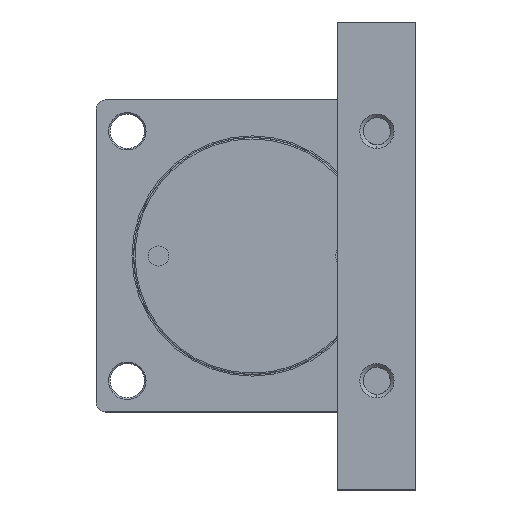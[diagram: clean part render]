
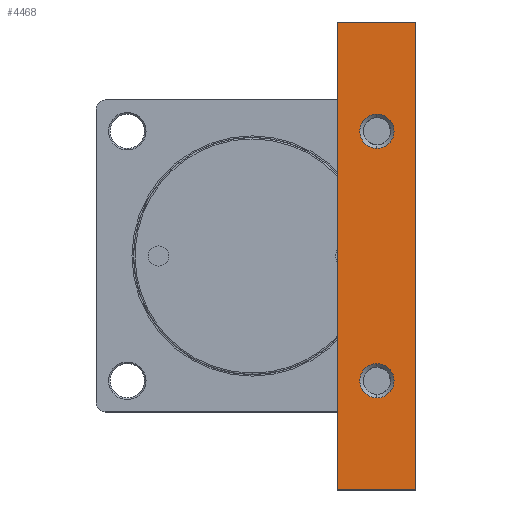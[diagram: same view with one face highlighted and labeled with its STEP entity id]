
A CAD part, left-side view. The second image highlights one B-rep face of the part: STEP entity #4468.
In plain terms, the highlighted planar face has unit normal (1, 0, 0).
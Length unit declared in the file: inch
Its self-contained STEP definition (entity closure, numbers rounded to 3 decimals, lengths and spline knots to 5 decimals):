
#258 = EDGE_LOOP ( 'NONE', ( #7347, #4737 ) ) ;
#575 = DIRECTION ( 'NONE',  ( 0., 0., 1. ) ) ;
#580 = DIRECTION ( 'NONE',  ( -1., 0., 0. ) ) ;
#596 = CARTESIAN_POINT ( 'NONE',  ( -3.3622, -3.14961, 3.14961 ) ) ;
#1124 = DIRECTION ( 'NONE',  ( 0., 1., 0. ) ) ;
#1127 = EDGE_LOOP ( 'NONE', ( #9376, #6867 ) ) ;
#1317 = CARTESIAN_POINT ( 'NONE',  ( -3.3622, -4.13386, -5.90551 ) ) ;
#1823 = AXIS2_PLACEMENT_3D ( 'NONE', #596, #580, #575 ) ;
#2290 = CARTESIAN_POINT ( 'NONE',  ( -3.3622, -3.14961, -3.58268 ) ) ;
#2333 = DIRECTION ( 'NONE',  ( 0., 0., -1. ) ) ;
#2349 = CARTESIAN_POINT ( 'NONE',  ( -3.3622, -4.13386, 5.90551 ) ) ;
#2392 = VERTEX_POINT ( 'NONE', #3296 ) ;
#2446 = CARTESIAN_POINT ( 'NONE',  ( -3.3622, -3.14961, 2.71654 ) ) ;
#2459 = CARTESIAN_POINT ( 'NONE',  ( -3.3622, -4.13386, -5.90551 ) ) ;
#2491 = AXIS2_PLACEMENT_3D ( 'NONE', #6631, #6555, #6552 ) ;
#2942 = FACE_BOUND ( 'NONE', #258, .T. ) ;
#3052 = DIRECTION ( 'NONE',  ( 0., -1., 0. ) ) ;
#3160 = CARTESIAN_POINT ( 'NONE',  ( -3.3622, -4.13386, 5.90551 ) ) ;
#3163 = FACE_BOUND ( 'NONE', #1127, .T. ) ;
#3175 = FACE_OUTER_BOUND ( 'NONE', #5638, .T. ) ;
#3176 = CARTESIAN_POINT ( 'NONE',  ( -3.3622, -2.16535, 5.90551 ) ) ;
#3296 = CARTESIAN_POINT ( 'NONE',  ( -3.3622, -3.14961, -2.71654 ) ) ;
#3330 = DIRECTION ( 'NONE',  ( 0., 0., 1. ) ) ;
#4468 = ADVANCED_FACE ( 'NONE', ( #3175, #3163, #2942 ), #6646, .T. ) ;
#4539 = CARTESIAN_POINT ( 'NONE',  ( -3.3622, -3.14961, 3.58268 ) ) ;
#4737 = ORIENTED_EDGE ( 'NONE', *, *, #9569, .T. ) ;
#5483 = CARTESIAN_POINT ( 'NONE',  ( -3.3622, -2.16535, 5.90551 ) ) ;
#5638 = EDGE_LOOP ( 'NONE', ( #5761, #7686, #7256, #12527 ) ) ;
#5761 = ORIENTED_EDGE ( 'NONE', *, *, #8992, .T. ) ;
#6424 = AXIS2_PLACEMENT_3D ( 'NONE', #6561, #6544, #6516 ) ;
#6497 = VERTEX_POINT ( 'NONE', #4539 ) ;
#6516 = DIRECTION ( 'NONE',  ( 0., 0., 1. ) ) ;
#6544 = DIRECTION ( 'NONE',  ( -1., 0., 0. ) ) ;
#6552 = DIRECTION ( 'NONE',  ( 0., 0., -1. ) ) ;
#6555 = DIRECTION ( 'NONE',  ( 1., 0., 0. ) ) ;
#6561 = CARTESIAN_POINT ( 'NONE',  ( -3.3622, -3.14961, 3.14961 ) ) ;
#6631 = CARTESIAN_POINT ( 'NONE',  ( -3.3622, -4.13386, 5.90551 ) ) ;
#6646 = PLANE ( 'NONE',  #2491 ) ;
#6680 = CARTESIAN_POINT ( 'NONE',  ( -3.3622, -4.13386, 5.90551 ) ) ;
#6734 = VERTEX_POINT ( 'NONE', #2446 ) ;
#6785 = DIRECTION ( 'NONE',  ( 0., 0., 1. ) ) ;
#6867 = ORIENTED_EDGE ( 'NONE', *, *, #9488, .T. ) ;
#7256 = ORIENTED_EDGE ( 'NONE', *, *, #9212, .T. ) ;
#7347 = ORIENTED_EDGE ( 'NONE', *, *, #8375, .T. ) ;
#7624 = DIRECTION ( 'NONE',  ( 0., 0., 1. ) ) ;
#7641 = DIRECTION ( 'NONE',  ( -1., 0., 0. ) ) ;
#7643 = CARTESIAN_POINT ( 'NONE',  ( -3.3622, -3.14961, -3.14961 ) ) ;
#7686 = ORIENTED_EDGE ( 'NONE', *, *, #9041, .T. ) ;
#8375 = EDGE_CURVE ( 'NONE', #2392, #9233, #9399, .T. ) ;
#8740 = VERTEX_POINT ( 'NONE', #6680 ) ;
#8745 = EDGE_CURVE ( 'NONE', #6497, #6734, #10052, .T. ) ;
#8992 = EDGE_CURVE ( 'NONE', #14066, #9688, #10762, .T. ) ;
#9041 = EDGE_CURVE ( 'NONE', #9688, #8740, #10702, .T. ) ;
#9212 = EDGE_CURVE ( 'NONE', #8740, #13878, #10821, .T. ) ;
#9233 = VERTEX_POINT ( 'NONE', #2290 ) ;
#9376 = ORIENTED_EDGE ( 'NONE', *, *, #8745, .T. ) ;
#9399 = CIRCLE ( 'NONE', #12640, 0.43307 ) ;
#9424 = EDGE_CURVE ( 'NONE', #13878, #14066, #12052, .T. ) ;
#9488 = EDGE_CURVE ( 'NONE', #6734, #6497, #12152, .T. ) ;
#9569 = EDGE_CURVE ( 'NONE', #9233, #2392, #12432, .T. ) ;
#9688 = VERTEX_POINT ( 'NONE', #5483 ) ;
#10052 = CIRCLE ( 'NONE', #6424, 0.43307 ) ;
#10225 = CARTESIAN_POINT ( 'NONE',  ( -3.3622, -3.14961, -3.14961 ) ) ;
#10702 = LINE ( 'NONE', #3160, #10850 ) ;
#10714 = VECTOR ( 'NONE', #3330, 39.37008 ) ;
#10762 = LINE ( 'NONE', #3176, #10714 ) ;
#10821 = LINE ( 'NONE', #2349, #11271 ) ;
#10850 = VECTOR ( 'NONE', #3052, 39.37008 ) ;
#11123 = CARTESIAN_POINT ( 'NONE',  ( -3.3622, -2.16535, -5.90551 ) ) ;
#11237 = AXIS2_PLACEMENT_3D ( 'NONE', #10225, #12823, #6785 ) ;
#11271 = VECTOR ( 'NONE', #2333, 39.37008 ) ;
#12052 = LINE ( 'NONE', #1317, #12107 ) ;
#12107 = VECTOR ( 'NONE', #1124, 39.37008 ) ;
#12152 = CIRCLE ( 'NONE', #1823, 0.43307 ) ;
#12432 = CIRCLE ( 'NONE', #11237, 0.43307 ) ;
#12527 = ORIENTED_EDGE ( 'NONE', *, *, #9424, .T. ) ;
#12640 = AXIS2_PLACEMENT_3D ( 'NONE', #7643, #7641, #7624 ) ;
#12823 = DIRECTION ( 'NONE',  ( -1., 0., 0. ) ) ;
#13878 = VERTEX_POINT ( 'NONE', #2459 ) ;
#14066 = VERTEX_POINT ( 'NONE', #11123 ) ;
